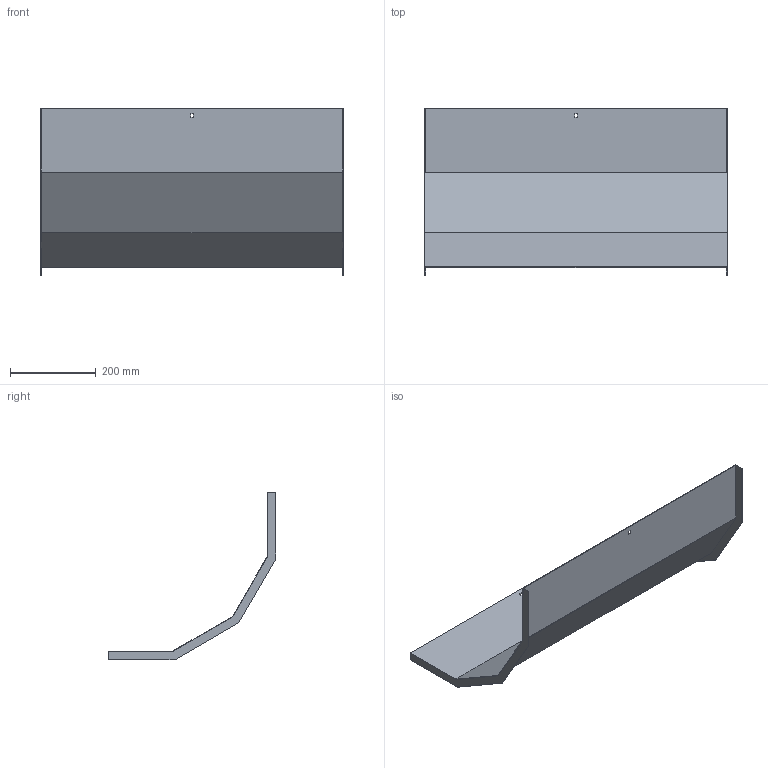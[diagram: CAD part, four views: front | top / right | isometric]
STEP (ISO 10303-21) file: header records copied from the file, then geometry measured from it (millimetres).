
FILE_DESCRIPTION (( 'STEP AP214' ), '1' );
FILE_NAME ('A2X30N3R700X.step', '2025-04-02T08:34:30', ( '' ), ( '' ), 'SwSTEP 2.0', 'SolidWorks 2023', '' );
FILE_SCHEMA (( 'AUTOMOTIVE_DESIGN' ));
Length unit declared in the file: millimetre
Products named in the file (1): A2X30N3R700X
Bounding box: 703 x 388.95 x 388.95 mm (x, y, z)
Volume: 690699.2 mm3; surface area: 925199.3 mm2
Topology: 1 solids, 1 shells, 30 faces, 84 edges, 56 vertices
Faces by surface type: plane 30
Entity records: 979 total; most frequent: CARTESIAN_POINT 171, ORIENTED_EDGE 168, DIRECTION 146, EDGE_CURVE 84, LINE 84, VECTOR 84, VERTEX_POINT 56, EDGE_LOOP 34
